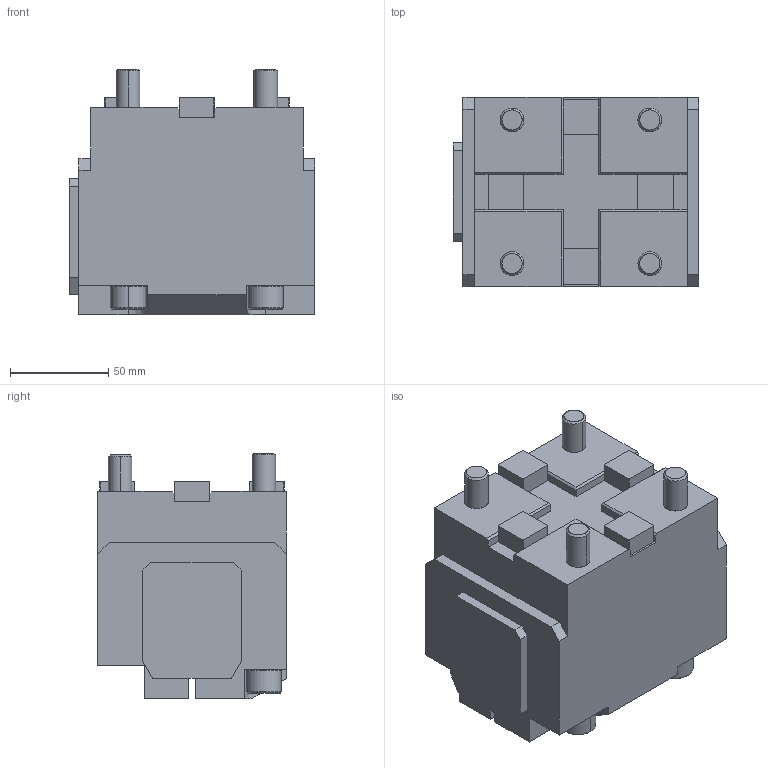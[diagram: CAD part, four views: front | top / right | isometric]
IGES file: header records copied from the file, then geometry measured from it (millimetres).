
Start section: SolidWorks IGES file using analytic representation for surfaces
Global section: file name: C:\Working Directory\Command BMT65 Renders\Step Models\EWS-10976.IGS; native system: SolidWorks 2017; preprocessor: SolidWorks 2017; author: kthao; date: 180212.152046; units: inch
Bounding box: 125 x 96 x 125 mm (x, y, z)
Surface area: 91943.1 mm2 (no closed solid volume)
Topology: 0 solids, 0 shells, 253 faces, 2462 edges, 2454 vertices
Faces by surface type: bspline 146, revolution 107
